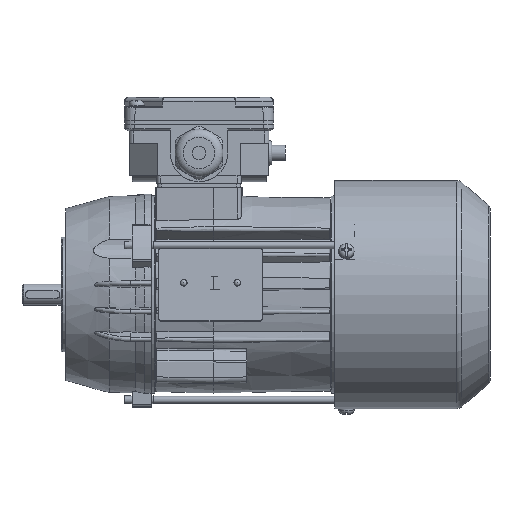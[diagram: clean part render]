
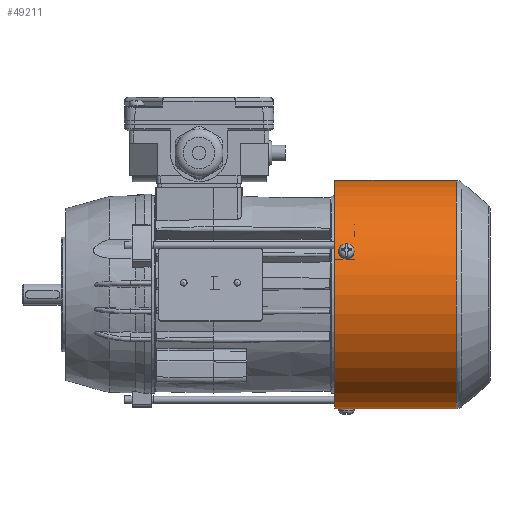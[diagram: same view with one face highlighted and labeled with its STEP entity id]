
A CAD part, front view. The second image highlights one B-rep face of the part: STEP entity #49211.
In plain terms, the highlighted cylindrical face has radius 59.6 mm (diameter 119.2 mm), a full revolution.
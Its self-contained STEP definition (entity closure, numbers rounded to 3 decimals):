
#1182=B_SPLINE_CURVE_WITH_KNOTS('',3,(#74325,#74326,#74327,#74328,#74329,
#74330,#74331),.UNSPECIFIED.,.F.,.F.,(4,1,1,1,4),(0.,
0.002,0.004,0.006,0.007),
 .UNSPECIFIED.);
#1183=B_SPLINE_CURVE_WITH_KNOTS('',3,(#74333,#74334,#74335,#74336,#74337,
#74338,#74339),.UNSPECIFIED.,.F.,.F.,(4,1,1,1,4),(0.,
0.002,0.004,0.006,0.007),
 .UNSPECIFIED.);
#1184=B_SPLINE_CURVE_WITH_KNOTS('',3,(#74345,#74346,#74347,#74348,#74349,
#74350,#74351),.UNSPECIFIED.,.F.,.F.,(4,1,1,1,4),(0.,0.002,
0.004,0.006,0.008),
 .UNSPECIFIED.);
#1185=B_SPLINE_CURVE_WITH_KNOTS('',3,(#74359,#74360,#74361,#74362,#74363,
#74364,#74365),.UNSPECIFIED.,.F.,.F.,(4,1,1,1,4),(0.,
0.002,0.004,0.006,0.008),
 .UNSPECIFIED.);
#1186=B_SPLINE_CURVE_WITH_KNOTS('',3,(#74376,#74377,#74378,#74379,#74380,
#74381,#74382),.UNSPECIFIED.,.F.,.F.,(4,1,1,1,4),(0.,0.002,
0.004,0.006,0.008),
 .UNSPECIFIED.);
#1187=B_SPLINE_CURVE_WITH_KNOTS('',3,(#74390,#74391,#74392,#74393,#74394,
#74395,#74396),.UNSPECIFIED.,.F.,.F.,(4,1,1,1,4),(0.,0.002,
0.004,0.006,0.008),
 .UNSPECIFIED.);
#14398=ORIENTED_EDGE('',*,*,#21513,.T.);
#14399=ORIENTED_EDGE('',*,*,#21511,.T.);
#14400=ORIENTED_EDGE('',*,*,#21516,.T.);
#14401=ORIENTED_EDGE('',*,*,#21515,.T.);
#14402=ORIENTED_EDGE('',*,*,#21507,.F.);
#14403=ORIENTED_EDGE('',*,*,#21508,.F.);
#14404=ORIENTED_EDGE('',*,*,#21522,.T.);
#14405=ORIENTED_EDGE('',*,*,#21520,.T.);
#14406=ORIENTED_EDGE('',*,*,#21525,.T.);
#14407=ORIENTED_EDGE('',*,*,#21524,.T.);
#14408=ORIENTED_EDGE('',*,*,#21609,.F.);
#14409=ORIENTED_EDGE('',*,*,#21517,.T.);
#21507=EDGE_CURVE('',#25608,#25607,#1182,.T.);
#21508=EDGE_CURVE('',#25607,#25608,#1183,.T.);
#21511=EDGE_CURVE('',#25669,#25670,#1184,.T.);
#21513=EDGE_CURVE('',#25671,#25669,#27867,.F.);
#21515=EDGE_CURVE('',#25672,#25671,#1185,.T.);
#21516=EDGE_CURVE('',#25670,#25672,#27868,.F.);
#21517=EDGE_CURVE('',#25673,#25673,#27869,.F.);
#21520=EDGE_CURVE('',#25674,#25675,#1186,.T.);
#21522=EDGE_CURVE('',#25676,#25674,#27870,.F.);
#21524=EDGE_CURVE('',#25677,#25676,#1187,.T.);
#21525=EDGE_CURVE('',#25675,#25677,#27871,.F.);
#21609=EDGE_CURVE('',#25744,#25744,#27908,.T.);
#25607=VERTEX_POINT('',#72954);
#25608=VERTEX_POINT('',#72955);
#25669=VERTEX_POINT('',#74342);
#25670=VERTEX_POINT('',#74344);
#25671=VERTEX_POINT('',#74354);
#25672=VERTEX_POINT('',#74358);
#25673=VERTEX_POINT('',#74370);
#25674=VERTEX_POINT('',#74373);
#25675=VERTEX_POINT('',#74375);
#25676=VERTEX_POINT('',#74385);
#25677=VERTEX_POINT('',#74389);
#25744=VERTEX_POINT('',#74592);
#27867=CIRCLE('',#52124,59.6);
#27868=CIRCLE('',#52127,59.6);
#27869=CIRCLE('',#52129,59.6);
#27870=CIRCLE('',#52132,59.6);
#27871=CIRCLE('',#52135,59.6);
#27908=CIRCLE('',#52215,59.6);
#30026=EDGE_LOOP('',(#14398,#14399,#14400,#14401));
#30027=EDGE_LOOP('',(#14402,#14403));
#30028=EDGE_LOOP('',(#14404,#14405,#14406,#14407));
#30029=EDGE_LOOP('',(#14408));
#30030=EDGE_LOOP('',(#14409));
#32437=FACE_BOUND('',#30026,.T.);
#32438=FACE_BOUND('',#30027,.T.);
#32439=FACE_BOUND('',#30028,.T.);
#32440=FACE_BOUND('',#30029,.T.);
#32441=FACE_BOUND('',#30030,.T.);
#33719=CYLINDRICAL_SURFACE('',#52214,59.6);
#49211=ADVANCED_FACE('',(#32437,#32438,#32439,#32440,#32441),#33719,.T.);
#52124=AXIS2_PLACEMENT_3D('',#74355,#59724,#59725);
#52127=AXIS2_PLACEMENT_3D('',#74367,#59731,#59732);
#52129=AXIS2_PLACEMENT_3D('',#74369,#59735,#59736);
#52132=AXIS2_PLACEMENT_3D('',#74386,#59744,#59745);
#52135=AXIS2_PLACEMENT_3D('',#74398,#59751,#59752);
#52214=AXIS2_PLACEMENT_3D('',#74590,#59956,#59957);
#52215=AXIS2_PLACEMENT_3D('',#74591,#59958,#59959);
#59724=DIRECTION('',(-1.,0.,0.));
#59725=DIRECTION('',(0.,0.866,-0.5));
#59731=DIRECTION('',(1.,0.,0.));
#59732=DIRECTION('',(0.,-0.866,0.5));
#59735=DIRECTION('',(1.,0.,0.));
#59736=DIRECTION('',(0.,0.,-1.));
#59744=DIRECTION('',(-1.,0.,0.));
#59745=DIRECTION('',(0.,0.,1.));
#59751=DIRECTION('',(1.,0.,0.));
#59752=DIRECTION('',(0.,0.,-1.));
#59956=DIRECTION('',(-1.,0.,0.));
#59957=DIRECTION('',(0.,0.,1.));
#59958=DIRECTION('',(-1.,0.,0.));
#59959=DIRECTION('',(0.,0.,1.));
#72954=CARTESIAN_POINT('',(67.,8.295,-59.02));
#72955=CARTESIAN_POINT('',(72.,8.295,-59.02));
#74325=CARTESIAN_POINT('',(72.,8.295,-59.02));
#74326=CARTESIAN_POINT('',(71.937,7.681,-59.106));
#74327=CARTESIAN_POINT('',(71.356,6.499,-59.249));
#74328=CARTESIAN_POINT('',(69.502,5.777,-59.318));
#74329=CARTESIAN_POINT('',(67.649,6.493,-59.25));
#74330=CARTESIAN_POINT('',(67.063,7.681,-59.106));
#74331=CARTESIAN_POINT('',(67.,8.295,-59.02));
#74333=CARTESIAN_POINT('',(67.,8.295,-59.02));
#74334=CARTESIAN_POINT('',(67.063,8.908,-58.934));
#74335=CARTESIAN_POINT('',(67.644,10.084,-58.746));
#74336=CARTESIAN_POINT('',(69.498,10.797,-58.613));
#74337=CARTESIAN_POINT('',(71.351,10.09,-58.745));
#74338=CARTESIAN_POINT('',(71.937,8.908,-58.934));
#74339=CARTESIAN_POINT('',(72.,8.295,-59.02));
#74342=CARTESIAN_POINT('',(72.,46.437,37.36));
#74344=CARTESIAN_POINT('',(67.,46.437,37.36));
#74345=CARTESIAN_POINT('',(72.,46.437,37.36));
#74346=CARTESIAN_POINT('',(72.,46.023,37.874));
#74347=CARTESIAN_POINT('',(71.458,45.191,38.867));
#74348=CARTESIAN_POINT('',(69.502,44.648,39.479));
#74349=CARTESIAN_POINT('',(67.542,45.19,38.869));
#74350=CARTESIAN_POINT('',(67.,46.023,37.874));
#74351=CARTESIAN_POINT('',(67.,46.437,37.36));
#74354=CARTESIAN_POINT('',(72.,47.484,36.02));
#74355=CARTESIAN_POINT('',(72.,0.,0.));
#74358=CARTESIAN_POINT('',(67.,47.484,36.02));
#74359=CARTESIAN_POINT('',(67.,47.484,36.02));
#74360=CARTESIAN_POINT('',(67.,47.883,35.493));
#74361=CARTESIAN_POINT('',(67.542,48.645,34.446));
#74362=CARTESIAN_POINT('',(69.498,49.108,33.771));
#74363=CARTESIAN_POINT('',(71.458,48.646,34.444));
#74364=CARTESIAN_POINT('',(72.,47.883,35.493));
#74365=CARTESIAN_POINT('',(72.,47.484,36.02));
#74367=CARTESIAN_POINT('',(67.,0.,0.));
#74369=CARTESIAN_POINT('',(126.809,0.,0.));
#74370=CARTESIAN_POINT('',(126.809,0.,-59.6));
#74373=CARTESIAN_POINT('',(72.,-55.573,21.536));
#74375=CARTESIAN_POINT('',(67.,-55.573,21.536));
#74376=CARTESIAN_POINT('',(72.,-55.573,21.536));
#74377=CARTESIAN_POINT('',(72.,-55.812,20.92));
#74378=CARTESIAN_POINT('',(71.458,-56.255,19.703));
#74379=CARTESIAN_POINT('',(69.502,-56.514,18.927));
#74380=CARTESIAN_POINT('',(67.542,-56.256,19.701));
#74381=CARTESIAN_POINT('',(67.,-55.812,20.92));
#74382=CARTESIAN_POINT('',(67.,-55.573,21.536));
#74385=CARTESIAN_POINT('',(72.,-54.936,23.112));
#74386=CARTESIAN_POINT('',(72.,0.,0.));
#74389=CARTESIAN_POINT('',(67.,-54.936,23.112));
#74390=CARTESIAN_POINT('',(67.,-54.936,23.112));
#74391=CARTESIAN_POINT('',(67.,-54.68,23.721));
#74392=CARTESIAN_POINT('',(67.542,-54.154,24.905));
#74393=CARTESIAN_POINT('',(69.498,-53.8,25.643));
#74394=CARTESIAN_POINT('',(71.458,-54.153,24.907));
#74395=CARTESIAN_POINT('',(72.,-54.68,23.721));
#74396=CARTESIAN_POINT('',(72.,-54.936,23.112));
#74398=CARTESIAN_POINT('',(67.,0.,0.));
#74590=CARTESIAN_POINT('',(3.5,0.,0.));
#74591=CARTESIAN_POINT('',(63.5,0.,0.));
#74592=CARTESIAN_POINT('',(63.5,0.,59.6));
